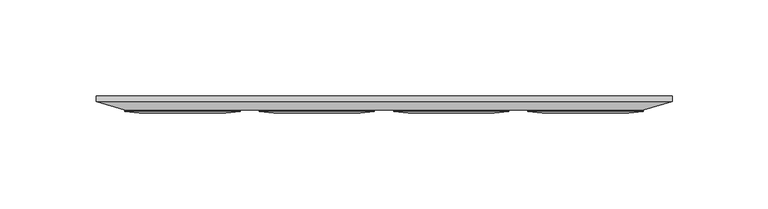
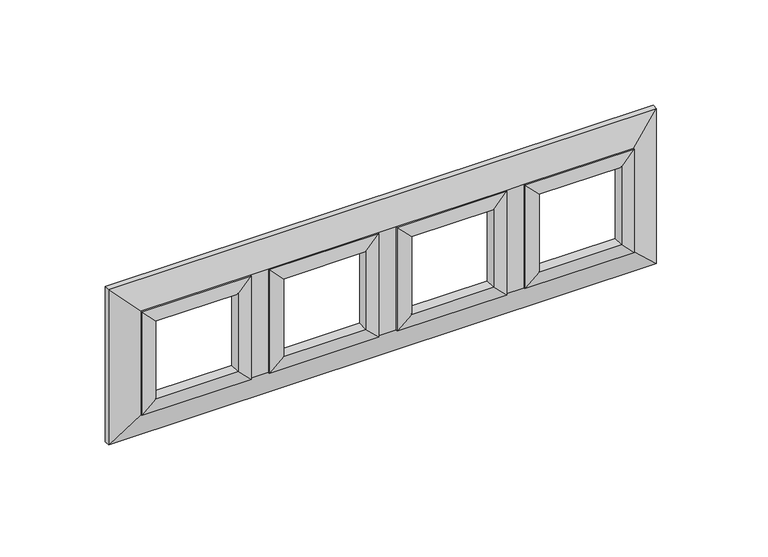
"""IFC4 building model written with IfcOpenShell, lengths in millimetres: proxy geometry."""

import ifcopenshell
import ifcopenshell.guid

model = None  # the IFC model being written
_history = None  # IfcOwnerHistory: only IFC2X3 demands one
_inside = {}  # id of a spatial element -> (the spatial element, [elements in it])
_under = {}  # id of a project, library or spatial element -> (it, [spatial elements below it])
_declared = {}  # id of a project -> (the project, [libraries it declares])
_typed = {}  # id of a type object -> (the type object, [elements of that type])
_made_of = {}  # id of a material, layer set ... -> (it, [elements and type objects made of it])


def new_model(schema):
    """Start an empty IFC model of exactly this schema.

    Asked for "IFC4X3", IfcOpenShell would pick the latest addendum, in which some entities
    have other attributes; the version numbers below select the first issue.
    IFC2X3 requires an IfcOwnerHistory on every rooted entity: one is made here for all.
    """
    global model, _history
    if schema == "IFC4X3":
        model = ifcopenshell.file(schema_version=(4, 3, 0, 0))
    else:
        model = ifcopenshell.file(schema=schema)
    _inside.clear()
    _under.clear()
    _declared.clear()
    _typed.clear()
    _made_of.clear()
    _history = None
    if model.schema == "IFC2X3":
        org = make("IfcOrganization", Name="unknown")
        user = make(
            "IfcPersonAndOrganization",
            ThePerson=make("IfcPerson", FamilyName="unknown"),
            TheOrganization=org,
        )
        app = make(
            "IfcApplication",
            ApplicationDeveloper=org,
            Version="unknown",
            ApplicationFullName="unknown",
            ApplicationIdentifier="unknown",
        )
        _history = make(
            "IfcOwnerHistory",
            OwningUser=user,
            OwningApplication=app,
            ChangeAction="ADDED",
            CreationDate=0,
        )
    return model


def make(cls, **values):
    """One entity of the class cls with the attributes given. An attribute that is None is left unset."""
    return model.create_entity(
        cls, **{name: value for name, value in values.items() if value is not None}
    )


def rooted(cls, **values):
    """An entity with a GlobalId (a new one), such as an element, a storey or a relation."""
    return make(cls, GlobalId=ifcopenshell.guid.new(), OwnerHistory=_history, **values)


def si_unit(unit_type, name, prefix=None):
    """IfcSIUnit, for example si_unit("LENGTHUNIT", "METRE", prefix="MILLI")."""
    return make("IfcSIUnit", UnitType=unit_type, Prefix=prefix, Name=name)


def assignment(units):
    """IfcUnitAssignment: the units of a project."""
    return None if units is None else make("IfcUnitAssignment", Units=units)


def point(xyz):
    """IfcCartesianPoint."""
    return None if xyz is None else make("IfcCartesianPoint", Coordinates=xyz)


def direction(xyz):
    """IfcDirection."""
    return None if xyz is None else make("IfcDirection", DirectionRatios=xyz)


def frame(location, z_axis=None, x_axis=None):
    """IfcAxis2Placement3D, a coordinate frame: its origin and axes. An axis left out is left unset."""
    return make(
        "IfcAxis2Placement3D",
        Location=point(location),
        Axis=direction(z_axis),
        RefDirection=direction(x_axis),
    )


def origin():
    """The frame at (0, 0, 0) with its axes left unset."""
    return frame((0.0, 0.0, 0.0))


def place(relative_to, where):
    """IfcLocalPlacement: puts the frame where relative to a parent placement (None: the world)."""
    return make(
        "IfcLocalPlacement", PlacementRelTo=relative_to, RelativePlacement=where
    )


def context(
    kind, dimensions, precision=None, world=None, true_north=None, identifier=None
):
    """IfcGeometricRepresentationContext, for example the 3D "Model" context."""
    return make(
        "IfcGeometricRepresentationContext",
        ContextIdentifier=identifier,
        ContextType=kind,
        CoordinateSpaceDimension=dimensions,
        Precision=precision,
        WorldCoordinateSystem=world,
        TrueNorth=true_north,
    )


def project(units=None, contexts=None):
    """IfcProject with its units and contexts."""
    return rooted(
        "IfcProject",
        Name="project",
        RepresentationContexts=contexts,
        UnitsInContext=assignment(units),
    )


def spatial(cls, under=None, at=None, **own):
    """A site, building, storey or space (cls), placed at a placement, below another one or the project."""
    s = rooted(cls, ObjectPlacement=at, **own)
    if under is not None:
        _under.setdefault(under.id(), (under, []))[1].append(s)
    return s


def faces_of(points, faces, orient=None, outer=None):
    """IfcFace entities. A face is a list of loops; a loop is a list of indices into points, from 0.

    orient and outer hold one flag for each loop. By default every Orientation is true, the
    first loop of a face is its IfcFaceOuterBound and the others are IfcFaceBound.
    """
    made = []
    for i, loops in enumerate(faces):
        bounds = []
        for j, loop in enumerate(loops):
            is_outer = j == 0 if outer is None else outer[i][j]
            bounds.append(
                make(
                    "IfcFaceOuterBound" if is_outer else "IfcFaceBound",
                    Bound=make("IfcPolyLoop", Polygon=[points[k] for k in loop]),
                    Orientation=True if orient is None else orient[i][j],
                )
            )
        made.append(make("IfcFace", Bounds=bounds))
    return made


def faceted_brep(points, faces, orient=None, outer=None, voids=None):
    """IfcFacetedBrep: a solid bounded by flat faces; with voids (closed shells), ...WithVoids."""
    shared = [point(p) for p in points]
    hull = make("IfcClosedShell", CfsFaces=faces_of(shared, faces, orient, outer))
    if voids is None:
        return make("IfcFacetedBrep", Outer=hull)
    return make(
        "IfcFacetedBrepWithVoids",
        Outer=hull,
        Voids=[
            make(cls, CfsFaces=faces_of(shared, fs, o, b)) for cls, fs, o, b in voids
        ],
    )


def shape(context_of_items, identifier, shape_type, items):
    """IfcShapeRepresentation: the items that make up one representation, for example the "Body"."""
    return make(
        "IfcShapeRepresentation",
        ContextOfItems=context_of_items,
        RepresentationIdentifier=identifier,
        RepresentationType=shape_type,
        Items=items,
    )


def source(mapping_origin, context_of_items, identifier, shape_type, items):
    """IfcRepresentationMap: a shape defined once, which mapped items show again and again."""
    return make(
        "IfcRepresentationMap",
        MappingOrigin=mapping_origin,
        MappedRepresentation=shape(context_of_items, identifier, shape_type, items),
    )


def transform(
    local_origin,
    x_axis=None,
    y_axis=None,
    z_axis=None,
    scale=None,
    scale2=None,
    scale3=None,
    uniform=True,
):
    """IfcCartesianTransformationOperator3D, or its non-uniform kind. x_axis, y_axis, z_axis: its Axis1, 2, 3."""
    if uniform:
        return make(
            "IfcCartesianTransformationOperator3D",
            Axis1=direction(x_axis),
            Axis2=direction(y_axis),
            LocalOrigin=point(local_origin),
            Scale=scale,
            Axis3=direction(z_axis),
        )
    return make(
        "IfcCartesianTransformationOperator3DnonUniform",
        Axis1=direction(x_axis),
        Axis2=direction(y_axis),
        LocalOrigin=point(local_origin),
        Scale=scale,
        Axis3=direction(z_axis),
        Scale2=scale2,
        Scale3=scale3,
    )


def mapped(mapping_source, mapping_target):
    """IfcMappedItem: shows the shape of a source again, moved by a transform."""
    return make(
        "IfcMappedItem", MappingSource=mapping_source, MappingTarget=mapping_target
    )


def made_of(thing, what):
    """Note that an element or type object is made of a material, layer set ...; save() writes the relation."""
    if what is not None:
        _made_of.setdefault(what.id(), (what, []))[1].append(thing)
    return thing


def element(
    cls,
    number,
    at=None,
    inside=None,
    cuts=None,
    type_object=None,
    material=None,
    context=None,
    identifier="Body",
    shape_type=None,
    held_by="IfcProductDefinitionShape",
    body=None,
    shapes=None,
    **own,
):
    """One element of the class cls, such as IfcWall. Its Tag is "e" and its number.

    at: its placement. inside: the storey or other place that contains it. cuts: it is an
    opening in that element (IfcRelVoidsElement). A single representation is given by context,
    identifier, shape_type and body (its items); several are given by shapes. held_by: the class
    of the entity that holds the representations. save() writes the other relations.
    """
    e = rooted(cls, Tag="e%d" % number, ObjectPlacement=at, **own)
    if body is not None:
        shapes = [shape(context, identifier, shape_type, body)]
    if shapes is not None:
        e.Representation = make(held_by, Representations=shapes)
    if inside is not None:
        _inside.setdefault(inside.id(), (inside, []))[1].append(e)
    if cuts is not None:
        rooted(
            "IfcRelVoidsElement", RelatingBuildingElement=cuts, RelatedOpeningElement=e
        )
    if type_object is not None:
        _typed.setdefault(type_object.id(), (type_object, []))[1].append(e)
    return made_of(e, material)


def aggregate(whole, parts):
    """IfcRelAggregates: a whole, such as a stair, and the parts it consists of."""
    return rooted("IfcRelAggregates", RelatingObject=whole, RelatedObjects=parts)


def save(model, path):
    """Write the relations noted so far, then the file.

    IfcRelAggregates (storeys below a building ...), IfcRelContainedInSpatialStructure (elements
    in a storey), IfcRelDefinesByType, IfcRelAssociatesMaterial and IfcRelDeclares: one each for
    every whole, place, type object, material and project.
    """
    for whole, parts in _under.values():
        aggregate(whole, parts)
    for where, things in _inside.values():
        rooted(
            "IfcRelContainedInSpatialStructure",
            RelatedElements=things,
            RelatingStructure=where,
        )
    for kind, things in _typed.values():
        rooted("IfcRelDefinesByType", RelatedObjects=things, RelatingType=kind)
    for what, things in _made_of.values():
        rooted("IfcRelAssociatesMaterial", RelatedObjects=things, RelatingMaterial=what)
    for by, libraries in _declared.values():
        rooted("IfcRelDeclares", RelatingContext=by, RelatedDefinitions=libraries)
    model.write(path)


def electrical_fixtures_f4268dcb(model_context):
    return source(origin(), model_context, "Body", "Brep", [
        faceted_brep([(150.0, 0.0, -45.0), (-150.0, 0.0, -45.0), (-150.0, 0.0, 45.0), (150.0, 0.0, 45.0), (140.5, 0.0, 35.5), (-140.5, 0.0, 35.5), (-140.5, 0.0, -35.5), (140.5, 0.0, -35.5), (150.0, -3.0228771, 45.0), (150.0, -3.0228771, -45.0), (135.0116526, -7.5, 30.0116526), (135.0116526, -7.5, -30.0116526), (-150.0, -3.0228771, 45.0), (-135.0116526, -7.5, 30.0116526), (-74.9883474, -7.5, 30.0116526), (-65.0116526, -7.5, 30.0116526), (-4.9883474, -7.5, 30.0116526), (4.9883474, -7.5, 30.0116526), (65.0116526, -7.5, 30.0116526), (74.9883474, -7.5, 30.0116526), (-150.0, -3.0228771, -45.0), (-135.0116526, -7.5, -30.0116526), (74.9883474, -7.5, -30.0116526), (65.0116526, -7.5, -30.0116526), (4.9883474, -7.5, -30.0116526), (-4.9883474, -7.5, -30.0116526), (-65.0116526, -7.5, -30.0116526), (-74.9883474, -7.5, -30.0116526), (140.5, -3.0, -35.5), (140.5, -3.0, 35.5), (-140.5, -3.0, 35.5), (-140.5, -3.0, -35.5), (-82.5, -3.0, -22.5), (-82.5, -3.0, 22.5), (-127.5, -3.0, 22.5), (-127.5, -3.0, -22.5), (127.5, -3.0, -22.5), (127.5, -3.0, 22.5), (82.5, -3.0, 22.5), (82.5, -3.0, -22.5), (-12.5, -3.0, -22.5), (-12.5, -3.0, 22.5), (-57.5, -3.0, 22.5), (-57.5, -3.0, -22.5), (57.5, -3.0, -22.5), (57.5, -3.0, 22.5), (12.5, -3.0, 22.5), (12.5, -3.0, -22.5), (-82.5, -9.0, -22.5), (-82.5, -9.0, 22.5), (-127.5, -9.0, 22.5), (-127.5, -9.0, -22.5), (-74.9883474, -8.3, 30.0116526), (-74.9883474, -8.3, -30.0116526), (-135.0116526, -8.3, 30.0116526), (-135.0116526, -8.3, -30.0116526), (127.5, -9.0, -22.5), (127.5, -9.0, 22.5), (82.5, -9.0, 22.5), (82.5, -9.0, -22.5), (135.0116526, -8.3, 30.0116526), (135.0116526, -8.3, -30.0116526), (74.9883474, -8.3, 30.0116526), (74.9883474, -8.3, -30.0116526), (-12.5, -9.0, -22.5), (-12.5, -9.0, 22.5), (-57.5, -9.0, 22.5), (-57.5, -9.0, -22.5), (-4.9883474, -8.3, 30.0116526), (-4.9883474, -8.3, -30.0116526), (-65.0116526, -8.3, 30.0116526), (-65.0116526, -8.3, -30.0116526), (57.5, -9.0, -22.5), (57.5, -9.0, 22.5), (12.5, -9.0, 22.5), (12.5, -9.0, -22.5), (65.0116526, -8.3, 30.0116526), (65.0116526, -8.3, -30.0116526), (4.9883474, -8.3, 30.0116526), (4.9883474, -8.3, -30.0116526)], [[[0, 1, 2, 3], [4, 5, 6, 7]], [[0, 3, 8, 9]], [[9, 8, 10, 11]], [[3, 2, 12, 8]], [[10, 8, 12, 13, 14, 15, 16, 17, 18, 19]], [[2, 1, 20, 12]], [[13, 12, 20, 21]], [[1, 0, 9, 20]], [[9, 11, 22, 23, 24, 25, 26, 27, 21, 20]], [[4, 7, 28, 29]], [[5, 4, 29, 30]], [[6, 5, 30, 31]], [[29, 28, 31, 30], [32, 33, 34, 35], [36, 37, 38, 39], [40, 41, 42, 43], [44, 45, 46, 47]], [[7, 6, 31, 28]], [[32, 48, 49, 33]], [[33, 49, 50, 34]], [[34, 50, 51, 35]], [[48, 32, 35, 51]], [[52, 53, 27, 14]], [[49, 48, 53, 52]], [[54, 52, 14, 13]], [[50, 49, 52, 54]], [[55, 54, 13, 21]], [[51, 50, 54, 55]], [[53, 55, 21, 27]], [[48, 51, 55, 53]], [[36, 56, 57, 37]], [[37, 57, 58, 38]], [[38, 58, 59, 39]], [[56, 36, 39, 59]], [[60, 61, 11, 10]], [[57, 56, 61, 60]], [[62, 60, 10, 19]], [[58, 57, 60, 62]], [[63, 62, 19, 22]], [[59, 58, 62, 63]], [[61, 63, 22, 11]], [[56, 59, 63, 61]], [[15, 14, 27, 26]], [[19, 18, 23, 22]], [[40, 64, 65, 41]], [[41, 65, 66, 42]], [[42, 66, 67, 43]], [[64, 40, 43, 67]], [[68, 69, 25, 16]], [[65, 64, 69, 68]], [[70, 68, 16, 15]], [[66, 65, 68, 70]], [[71, 70, 15, 26]], [[67, 66, 70, 71]], [[69, 71, 26, 25]], [[64, 67, 71, 69]], [[44, 72, 73, 45]], [[45, 73, 74, 46]], [[46, 74, 75, 47]], [[72, 44, 47, 75]], [[76, 77, 23, 18]], [[73, 72, 77, 76]], [[78, 76, 18, 17]], [[74, 73, 76, 78]], [[79, 78, 17, 24]], [[75, 74, 78, 79]], [[77, 79, 24, 23]], [[72, 75, 79, 77]], [[17, 16, 25, 24]]]),
    ])


if __name__ == "__main__":
    model = new_model("IFC4")
    model_context = context("Model", 3, world=origin())
    ifc_project = project(units=[si_unit("LENGTHUNIT", "METRE", prefix="MILLI")], contexts=[model_context])
    site = spatial("IfcSite", under=ifc_project)
    building = spatial("IfcBuilding", under=site)
    placement = place(None, origin())
    electrical_fixtures_shape = electrical_fixtures_f4268dcb(model_context)
    element("IfcBuildingElementProxy", 1, Name="Electrical Fixtures", at=placement, inside=building, context=model_context, shape_type="MappedRepresentation", body=[
        mapped(electrical_fixtures_shape, transform((0.0, 0.0, 0.0), x_axis=(1.0, 0.0, 0.0), y_axis=(0.0, 1.0, 0.0), z_axis=(0.0, 0.0, 1.0))),
    ])
    save(model, "model.ifc")
